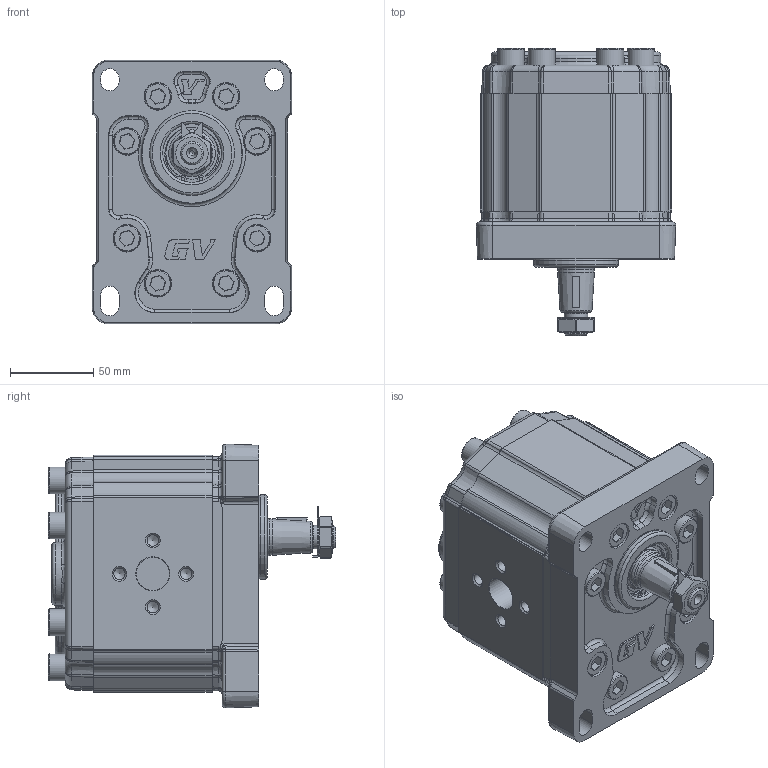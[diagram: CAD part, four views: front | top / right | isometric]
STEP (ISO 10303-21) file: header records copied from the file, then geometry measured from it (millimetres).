
FILE_DESCRIPTION(/* description */ ('Unknown'),/* implementation_level */ '2;1');
FILE_NAME(/* name */ 'G3P7001AAAA',/* time_stamp */ '2026-06-04T18:52:27+02:00',/* author */ ('Unknown'),/* organization */ ('Unknown'),/* preprocessor_version */ 'ST-DEVELOPER v16.7',/* originating_system */ 'Solid Edge',/* authorisation */ 'Unknown');
FILE_SCHEMA (('AUTOMOTIVE_DESIGN {1 0 10303 214 3 1 1}'));
Products named in the file (5): G3P7001AAAA; G3P01; 3A; G3AAH71; GP301-A
Assembly tree (4 placements, depth 2):
  G3P7001AAAA
    G3P01
    3A
    G3AAH71
    GP301-A
Bounding box: 119.5 x 172 x 158.1 mm (x, y, z)
Volume: 1770932 mm3; surface area: 203305.4 mm2
Topology: 4 solids, 5 shells, 2723 faces, 9126 edges, 5677 vertices
Faces by surface type: cylinder 1466, plane 919, cone 140, bspline 102, torus 96
Full cylindrical faces by diameter (mm): 2 x2, 6 x2, 6.8 x8, 10 x16, 10.5 x16, 14 x2, 15.8 x16, 16 x16, 16.5 x8, 17 x8, 20 x2, 22 x1, 24.98 x1, 25 x2, 25.968 x1, 28.16 x1, 31 x1, 31.293 x1, 32.742 x1, 34.956 x1, 35 x1, 35.2 x1, 37 x1, 50.8 x1
Entity records: 133091 total; most frequent: CARTESIAN_POINT 36696, ORIENTED_EDGE 17652, DIRECTION 15328, EDGE_CURVE 8826, AXIS2_PLACEMENT_3D 5809, VERTEX_POINT 5597, LINE 3710, VECTOR 3710
